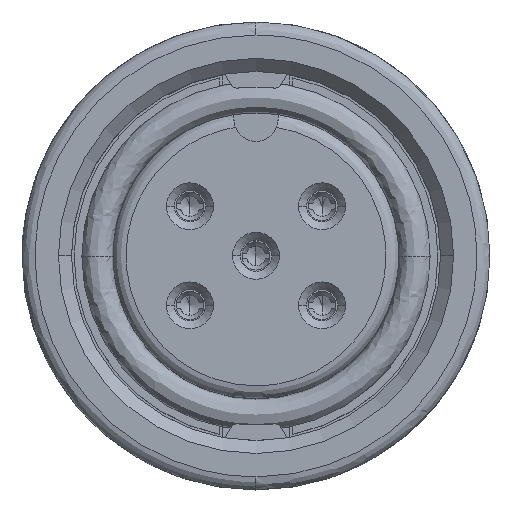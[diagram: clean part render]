
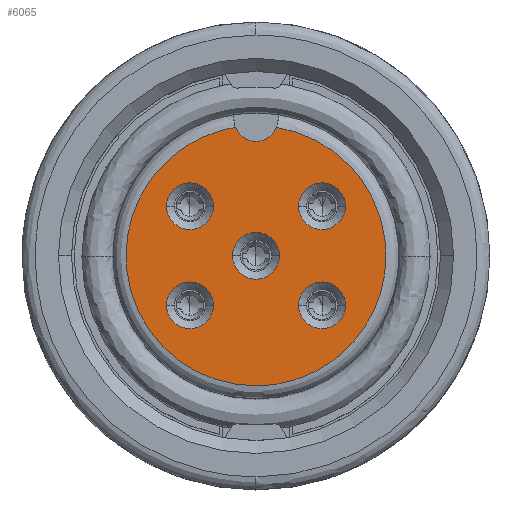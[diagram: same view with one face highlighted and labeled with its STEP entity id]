
A CAD part, top view. The second image highlights one B-rep face of the part: STEP entity #6065.
In plain terms, the highlighted planar face has unit normal (0, 0, 1).
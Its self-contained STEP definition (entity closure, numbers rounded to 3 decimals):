
#151 = CIRCLE ( 'NONE', #4336, 0.9 ) ;
#232 = DIRECTION ( 'NONE',  ( 1., 0., 0. ) ) ;
#364 = VERTEX_POINT ( 'NONE', #11561 ) ;
#716 = DIRECTION ( 'NONE',  ( 0., 0., -1. ) ) ;
#738 = CARTESIAN_POINT ( 'NONE',  ( -3.44, -1.905, 0. ) ) ;
#859 = EDGE_CURVE ( 'NONE', #30472, #1149, #151, .T. ) ;
#1149 = VERTEX_POINT ( 'NONE', #31499 ) ;
#1619 = ORIENTED_EDGE ( 'NONE', *, *, #16692, .F. ) ;
#1735 = CARTESIAN_POINT ( 'NONE',  ( -0.9, 0., 0. ) ) ;
#1746 = AXIS2_PLACEMENT_3D ( 'NONE', #14108, #9193, #6881 ) ;
#1888 = CARTESIAN_POINT ( 'NONE',  ( 3.44, 1.905, 0. ) ) ;
#2087 = FACE_BOUND ( 'NONE', #15947, .T. ) ;
#2781 = AXIS2_PLACEMENT_3D ( 'NONE', #24923, #12294, #9832 ) ;
#3191 = AXIS2_PLACEMENT_3D ( 'NONE', #21026, #28075, #13469 ) ;
#3299 = CIRCLE ( 'NONE', #2781, 0.9 ) ;
#3710 = CIRCLE ( 'NONE', #27822, 0.9 ) ;
#4058 = PLANE ( 'NONE',  #4459 ) ;
#4140 = CARTESIAN_POINT ( 'NONE',  ( -0.061, -5., 0. ) ) ;
#4336 = AXIS2_PLACEMENT_3D ( 'NONE', #32502, #25422, #8029 ) ;
#4459 = AXIS2_PLACEMENT_3D ( 'NONE', #17516, #22274, #27846 ) ;
#4613 = VERTEX_POINT ( 'NONE', #11818 ) ;
#4675 = EDGE_CURVE ( 'NONE', #13198, #364, #24283, .T. ) ;
#4710 = EDGE_CURVE ( 'NONE', #32156, #9526, #3299, .T. ) ;
#5730 = CIRCLE ( 'NONE', #19376, 0.9 ) ;
#5818 = CARTESIAN_POINT ( 'NONE',  ( -0.061, -5., 0. ) ) ;
#6065 = ADVANCED_FACE ( 'NONE', ( #9645, #24417, #19019, #2087, #29016, #16547 ), #4058, .T. ) ;
#6445 = EDGE_CURVE ( 'NONE', #364, #13198, #30283, .T. ) ;
#6870 = CIRCLE ( 'NONE', #3191, 0.85 ) ;
#6871 = CIRCLE ( 'NONE', #30443, 0.9 ) ;
#6881 = DIRECTION ( 'NONE',  ( 1., 0., 0. ) ) ;
#7863 = DIRECTION ( 'NONE',  ( 1., 0., 0. ) ) ;
#8029 = DIRECTION ( 'NONE',  ( 1., 0., 0. ) ) ;
#8534 = DIRECTION ( 'NONE',  ( 1., 0., 0. ) ) ;
#9193 = DIRECTION ( 'NONE',  ( 0., 0., -1. ) ) ;
#9305 = CARTESIAN_POINT ( 'NONE',  ( 8.638, -5.106, 0. ) ) ;
#9449 = CIRCLE ( 'NONE', #31994, 0.9 ) ;
#9526 = VERTEX_POINT ( 'NONE', #1888 ) ;
#9645 = FACE_BOUND ( 'NONE', #25263, .T. ) ;
#9724 = EDGE_CURVE ( 'NONE', #13879, #14767, #6871, .T. ) ;
#9832 = DIRECTION ( 'NONE',  ( 1., 0., 0. ) ) ;
#9855 = EDGE_CURVE ( 'NONE', #1149, #30472, #3710, .T. ) ;
#10362 = DIRECTION ( 'NONE',  ( 1., 0., 0. ) ) ;
#10421 = CARTESIAN_POINT ( 'NONE',  ( -8.571, -4.896, 0. ) ) ;
#10527 = CARTESIAN_POINT ( 'NONE',  ( 0.9, 0., 0. ) ) ;
#10734 = DIRECTION ( 'NONE',  ( 1., 0., 0. ) ) ;
#11015 = CARTESIAN_POINT ( 'NONE',  ( -2.54, -1.905, 0. ) ) ;
#11509 = ORIENTED_EDGE ( 'NONE', *, *, #15352, .T. ) ;
#11561 = CARTESIAN_POINT ( 'NONE',  ( 3.44, -1.905, 0. ) ) ;
#11818 = CARTESIAN_POINT ( 'NONE',  ( 0.79, 4.937, 0. ) ) ;
#11979 = EDGE_CURVE ( 'NONE', #9526, #32156, #9449, .T. ) ;
#12294 = DIRECTION ( 'NONE',  ( 0., 0., -1. ) ) ;
#12387 = DIRECTION ( 'NONE',  ( 0., 0., -1. ) ) ;
#13198 = VERTEX_POINT ( 'NONE', #14454 ) ;
#13450 = EDGE_CURVE ( 'NONE', #22477, #17281, #5730, .T. ) ;
#13452 = CARTESIAN_POINT ( 'NONE',  ( 0., 0., 0. ) ) ;
#13469 = DIRECTION ( 'NONE',  ( 1., 0., 0. ) ) ;
#13492 = ORIENTED_EDGE ( 'NONE', *, *, #4675, .T. ) ;
#13518 = ORIENTED_EDGE ( 'NONE', *, *, #11979, .T. ) ;
#13879 = VERTEX_POINT ( 'NONE', #31937 ) ;
#14108 = CARTESIAN_POINT ( 'NONE',  ( 2.54, -1.905, 0. ) ) ;
#14454 = CARTESIAN_POINT ( 'NONE',  ( 1.64, -1.905, 0. ) ) ;
#14767 = VERTEX_POINT ( 'NONE', #738 ) ;
#15352 = EDGE_CURVE ( 'NONE', #17281, #22477, #30899, .T. ) ;
#15739 = AXIS2_PLACEMENT_3D ( 'NONE', #11015, #22989, #10362 ) ;
#15947 = EDGE_LOOP ( 'NONE', ( #18744, #28277 ) ) ;
#16078 = DIRECTION ( 'NONE',  ( 0., 0., -1. ) ) ;
#16547 = FACE_OUTER_BOUND ( 'NONE', #31009, .T. ) ;
#16692 = EDGE_CURVE ( 'NONE', #4613, #25794, #20235, .T. ) ;
#16745 = AXIS2_PLACEMENT_3D ( 'NONE', #30532, #17579, #18065 ) ;
#17161 = EDGE_CURVE ( 'NONE', #14767, #13879, #17308, .T. ) ;
#17281 = VERTEX_POINT ( 'NONE', #10527 ) ;
#17296 = EDGE_CURVE ( 'NONE', #4613, #22805, #6870, .T. ) ;
#17308 = CIRCLE ( 'NONE', #15739, 0.9 ) ;
#17310 = CARTESIAN_POINT ( 'NONE',  ( 2.54, -1.905, 0. ) ) ;
#17516 = CARTESIAN_POINT ( 'NONE',  ( 0.001, -0.031, 0. ) ) ;
#17579 = DIRECTION ( 'NONE',  ( 0., 0., -1. ) ) ;
#17969 = ORIENTED_EDGE ( 'NONE', *, *, #17161, .T. ) ;
#17982 = CARTESIAN_POINT ( 'NONE',  ( -0.79, 4.937, 0. ) ) ;
#18065 = DIRECTION ( 'NONE',  ( 1., 0., 0. ) ) ;
#18258 = AXIS2_PLACEMENT_3D ( 'NONE', #17310, #12387, #232 ) ;
#18744 = ORIENTED_EDGE ( 'NONE', *, *, #859, .T. ) ;
#19019 = FACE_BOUND ( 'NONE', #28485, .T. ) ;
#19376 = AXIS2_PLACEMENT_3D ( 'NONE', #13452, #16078, #8534 ) ;
#19730 = DIRECTION ( 'NONE',  ( 0., 0., -1. ) ) ;
#20235 =( BOUNDED_CURVE ( )  B_SPLINE_CURVE ( 3, ( #29646, #31647, #9305, #22262 ),
 .UNSPECIFIED., .F., .T. ) 
 B_SPLINE_CURVE_WITH_KNOTS ( ( 4, 4 ),
 ( 0., 1. ),
 .UNSPECIFIED. ) 
 CURVE ( )  GEOMETRIC_REPRESENTATION_ITEM ( )  RATIONAL_B_SPLINE_CURVE ( ( 1., 0.382, 0.382, 1. ) ) 
 REPRESENTATION_ITEM ( '' )  );
#21026 = CARTESIAN_POINT ( 'NONE',  ( 0., 5.25, 0. ) ) ;
#22200 = DIRECTION ( 'NONE',  ( 1., 0., 0. ) ) ;
#22262 = CARTESIAN_POINT ( 'NONE',  ( -0.061, -5., 0. ) ) ;
#22274 = DIRECTION ( 'NONE',  ( 0., 0., 1. ) ) ;
#22477 = VERTEX_POINT ( 'NONE', #1735 ) ;
#22805 = VERTEX_POINT ( 'NONE', #31554 ) ;
#22810 = CARTESIAN_POINT ( 'NONE',  ( 2.54, 1.905, 0. ) ) ;
#22836 = ORIENTED_EDGE ( 'NONE', *, *, #9724, .T. ) ;
#22989 = DIRECTION ( 'NONE',  ( 0., 0., -1. ) ) ;
#23848 = CARTESIAN_POINT ( 'NONE',  ( -1.64, 1.905, 0. ) ) ;
#23976 = ORIENTED_EDGE ( 'NONE', *, *, #13450, .T. ) ;
#24283 = CIRCLE ( 'NONE', #1746, 0.9 ) ;
#24417 = FACE_BOUND ( 'NONE', #24753, .T. ) ;
#24738 = ORIENTED_EDGE ( 'NONE', *, *, #28580, .F. ) ;
#24753 = EDGE_LOOP ( 'NONE', ( #22836, #17969 ) ) ;
#24923 = CARTESIAN_POINT ( 'NONE',  ( 2.54, 1.905, 0. ) ) ;
#25263 = EDGE_LOOP ( 'NONE', ( #11509, #23976 ) ) ;
#25357 = CARTESIAN_POINT ( 'NONE',  ( -9.194, 3.592, 0. ) ) ;
#25422 = DIRECTION ( 'NONE',  ( 0., 0., -1. ) ) ;
#25653 = ORIENTED_EDGE ( 'NONE', *, *, #17296, .T. ) ;
#25794 = VERTEX_POINT ( 'NONE', #4140 ) ;
#25958 = CARTESIAN_POINT ( 'NONE',  ( 1.64, 1.905, 0. ) ) ;
#25988 = CARTESIAN_POINT ( 'NONE',  ( -2.54, -1.905, 0. ) ) ;
#27822 = AXIS2_PLACEMENT_3D ( 'NONE', #29422, #19730, #22200 ) ;
#27846 = DIRECTION ( 'NONE',  ( 1., 0., 0. ) ) ;
#28075 = DIRECTION ( 'NONE',  ( 0., 0., -1. ) ) ;
#28277 = ORIENTED_EDGE ( 'NONE', *, *, #9855, .T. ) ;
#28485 = EDGE_LOOP ( 'NONE', ( #29293, #13492 ) ) ;
#28580 = EDGE_CURVE ( 'NONE', #25794, #22805, #31169, .T. ) ;
#29016 = FACE_BOUND ( 'NONE', #31297, .T. ) ;
#29293 = ORIENTED_EDGE ( 'NONE', *, *, #6445, .T. ) ;
#29422 = CARTESIAN_POINT ( 'NONE',  ( -2.54, 1.905, 0. ) ) ;
#29646 = CARTESIAN_POINT ( 'NONE',  ( 0.79, 4.937, 0. ) ) ;
#30283 = CIRCLE ( 'NONE', #18258, 0.9 ) ;
#30350 = DIRECTION ( 'NONE',  ( 0., 0., -1. ) ) ;
#30443 = AXIS2_PLACEMENT_3D ( 'NONE', #25988, #716, #10734 ) ;
#30472 = VERTEX_POINT ( 'NONE', #23848 ) ;
#30532 = CARTESIAN_POINT ( 'NONE',  ( 0., 0., 0. ) ) ;
#30899 = CIRCLE ( 'NONE', #16745, 0.9 ) ;
#31009 = EDGE_LOOP ( 'NONE', ( #1619, #25653, #24738 ) ) ;
#31169 =( BOUNDED_CURVE ( )  B_SPLINE_CURVE ( 3, ( #5818, #10421, #25357, #17982 ),
 .UNSPECIFIED., .F., .T. ) 
 B_SPLINE_CURVE_WITH_KNOTS ( ( 4, 4 ),
 ( 0., 1. ),
 .UNSPECIFIED. ) 
 CURVE ( )  GEOMETRIC_REPRESENTATION_ITEM ( )  RATIONAL_B_SPLINE_CURVE ( ( 1., 0.39, 0.39, 1. ) ) 
 REPRESENTATION_ITEM ( '' )  );
#31297 = EDGE_LOOP ( 'NONE', ( #13518, #32333 ) ) ;
#31499 = CARTESIAN_POINT ( 'NONE',  ( -3.44, 1.905, 0. ) ) ;
#31554 = CARTESIAN_POINT ( 'NONE',  ( -0.79, 4.937, 0. ) ) ;
#31647 = CARTESIAN_POINT ( 'NONE',  ( 9.38, 3.562, 0. ) ) ;
#31937 = CARTESIAN_POINT ( 'NONE',  ( -1.64, -1.905, 0. ) ) ;
#31994 = AXIS2_PLACEMENT_3D ( 'NONE', #22810, #30350, #7863 ) ;
#32156 = VERTEX_POINT ( 'NONE', #25958 ) ;
#32333 = ORIENTED_EDGE ( 'NONE', *, *, #4710, .T. ) ;
#32502 = CARTESIAN_POINT ( 'NONE',  ( -2.54, 1.905, 0. ) ) ;
